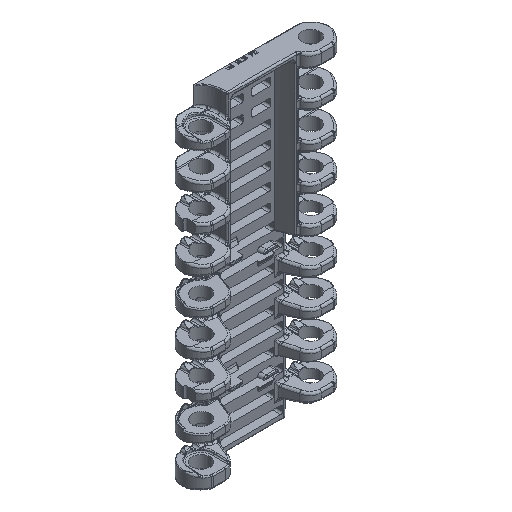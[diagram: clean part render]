
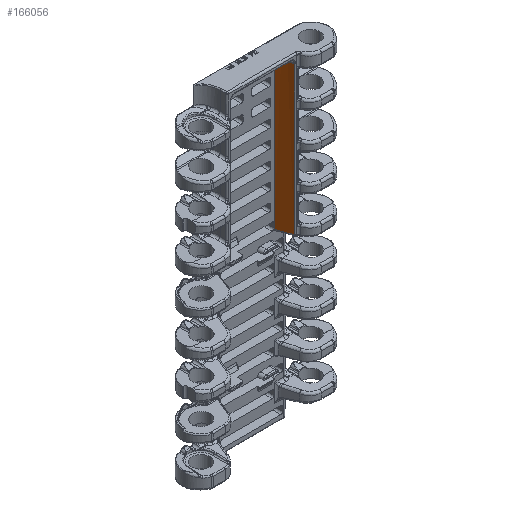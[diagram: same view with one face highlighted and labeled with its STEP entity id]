
A CAD part, isometric view. The second image highlights one B-rep face of the part: STEP entity #166056.
In plain terms, the highlighted cylindrical face has radius 50.016 mm (diameter 100.032 mm), a partial arc.
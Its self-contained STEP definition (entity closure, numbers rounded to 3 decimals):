
#14283=CARTESIAN_POINT('',(12.458,4.,71.35));
#14311=DIRECTION('',(0.,0.,1.));
#14312=VECTOR('',#14311,68.673);
#14313=CARTESIAN_POINT('',(12.458,4.,2.677));
#14314=LINE('',#14313,#14312);
#59428=DIRECTION('',(0.,0.,-1.));
#59429=VECTOR('',#59428,68.578);
#59430=CARTESIAN_POINT('',(14.82,-2.897,71.35));
#59431=LINE('',#59430,#59429);
#59435=CARTESIAN_POINT('',(14.82,-2.897,
2.772));
#59436=CARTESIAN_POINT('',(14.703,-2.452,
2.767));
#59437=CARTESIAN_POINT('',(14.457,-1.564,
2.757));
#59438=CARTESIAN_POINT('',(14.054,-0.254,
2.741));
#59439=CARTESIAN_POINT('',(13.605,1.076,2.723));
#59440=CARTESIAN_POINT('',(13.072,2.514,2.702));
#59441=CARTESIAN_POINT('',(12.672,3.499,2.686));
#59442=CARTESIAN_POINT('',(12.458,4.,2.677));
#59447=CARTESIAN_POINT('',(-33.553,-15.61,71.35));
#59448=DIRECTION('',(0.,0.,1.));
#59449=DIRECTION('',(0.967,0.254,0.));
#59450=AXIS2_PLACEMENT_3D('',#59447,#59448,#59449);
#59455=CARTESIAN_POINT('',(14.82,-2.897,
2.772));
#76484=VERTEX_POINT('',#14283);
#76633=CARTESIAN_POINT('',(14.82,-2.897,71.35));
#76634=VERTEX_POINT('',#76633);
#76752=CARTESIAN_POINT('',(12.458,4.,2.677));
#76753=VERTEX_POINT('',#76752);
#79009=VERTEX_POINT('',#59455);
#166043=CARTESIAN_POINT('',(-33.553,-15.61,75.5));
#166044=DIRECTION('',(0.,0.,1.));
#166045=DIRECTION('',(-1.,0.,0.));
#166046=AXIS2_PLACEMENT_3D('',#166043,#166044,#166045);
#166047=CYLINDRICAL_SURFACE('',#166046,50.016);
#166049=ORIENTED_EDGE('',*,*,#166048,.T.);
#166050=ORIENTED_EDGE('',*,*,#166035,.T.);
#166051=ORIENTED_EDGE('',*,*,#95582,.T.);
#166053=ORIENTED_EDGE('',*,*,#166052,.F.);
#166054=EDGE_LOOP('',(#166049,#166050,#166051,#166053));
#166055=FACE_OUTER_BOUND('',#166054,.F.);
#59443=B_SPLINE_CURVE_WITH_KNOTS('',3,(#59435,#59436,#59437,#59438,#59439,
#59440,#59441,#59442),.UNSPECIFIED.,.F.,.F.,(4,1,1,1,1,4),(0.,0.2,0.4,
0.6,0.8,1.),.UNSPECIFIED.);
#59451=CIRCLE('',#59450,50.016);
#95582=EDGE_CURVE('',#76753,#76484,#14314,.T.);
#166035=EDGE_CURVE('',#79009,#76753,#59443,.T.);
#166048=EDGE_CURVE('',#76634,#79009,#59431,.T.);
#166052=EDGE_CURVE('',#76634,#76484,#59451,.T.);
#166056=ADVANCED_FACE('',(#166055),#166047,.F.);
